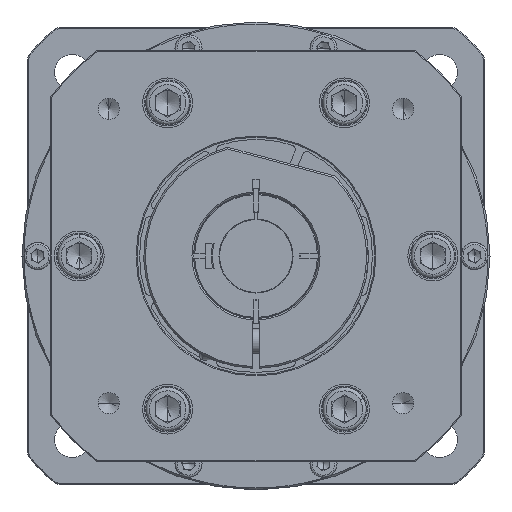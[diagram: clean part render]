
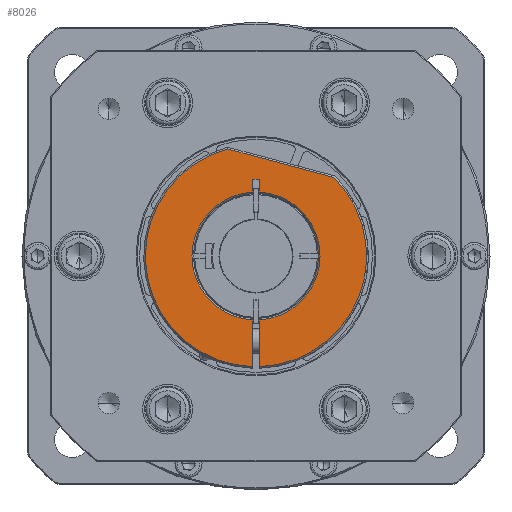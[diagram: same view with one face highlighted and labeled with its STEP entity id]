
A CAD part, left-side view. The second image highlights one B-rep face of the part: STEP entity #8026.
In plain terms, the highlighted planar face has unit normal (-1, 0, 0).
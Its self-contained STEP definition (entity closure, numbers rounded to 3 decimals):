
#150 = ORIENTED_EDGE ( 'NONE', *, *, #2705, .T. ) ;
#374 = ORIENTED_EDGE ( 'NONE', *, *, #33888, .T. ) ;
#466 = DIRECTION ( 'NONE',  ( 1., 0., 0. ) ) ;
#969 = CARTESIAN_POINT ( 'NONE',  ( 376.5, 1.5, -74.255 ) ) ;
#1063 = AXIS2_PLACEMENT_3D ( 'NONE', #4363, #33367, #4026 ) ;
#1080 = DIRECTION ( 'NONE',  ( 0., 0., 1. ) ) ;
#1483 = CARTESIAN_POINT ( 'NONE',  ( 376.5, -1.5, 30.763 ) ) ;
#1712 = DIRECTION ( 'NONE',  ( 0., 0., -1. ) ) ;
#2208 = CARTESIAN_POINT ( 'NONE',  ( 376.5, -1.5, -30.763 ) ) ;
#2705 = EDGE_CURVE ( 'NONE', #31221, #14386, #3387, .T. ) ;
#2822 = VECTOR ( 'NONE', #22998, 1000. ) ;
#2962 = EDGE_CURVE ( 'NONE', #14386, #19424, #19687, .T. ) ;
#3387 = LINE ( 'NONE', #28286, #6751 ) ;
#3482 = ORIENTED_EDGE ( 'NONE', *, *, #23799, .T. ) ;
#3909 = CARTESIAN_POINT ( 'NONE',  ( 376.5, 1.5, -30.763 ) ) ;
#4026 = DIRECTION ( 'NONE',  ( 0., -1., 0. ) ) ;
#4363 = CARTESIAN_POINT ( 'NONE',  ( 376.5, 0., 0. ) ) ;
#4481 = ORIENTED_EDGE ( 'NONE', *, *, #18477, .T. ) ;
#4490 = CIRCLE ( 'NONE', #17150, 53.2 ) ;
#4522 = CARTESIAN_POINT ( 'NONE',  ( 376.5, 13.522, 51.453 ) ) ;
#5473 = VERTEX_POINT ( 'NONE', #20111 ) ;
#6751 = VECTOR ( 'NONE', #33473, 1000. ) ;
#6900 = VERTEX_POINT ( 'NONE', #4522 ) ;
#8026 = ADVANCED_FACE ( 'NONE', ( #16850 ), #12878, .T. ) ;
#8434 = DIRECTION ( 'NONE',  ( 0., 0., -1. ) ) ;
#8641 = CARTESIAN_POINT ( 'NONE',  ( 376.5, 0., 0. ) ) ;
#9115 = EDGE_CURVE ( 'NONE', #12646, #9668, #18431, .T. ) ;
#9185 = EDGE_CURVE ( 'NONE', #5473, #11296, #25989, .T. ) ;
#9668 = VERTEX_POINT ( 'NONE', #1483 ) ;
#9794 = AXIS2_PLACEMENT_3D ( 'NONE', #24700, #466, #30131 ) ;
#10837 = ORIENTED_EDGE ( 'NONE', *, *, #9115, .T. ) ;
#10877 = ORIENTED_EDGE ( 'NONE', *, *, #32204, .T. ) ;
#11296 = VERTEX_POINT ( 'NONE', #2208 ) ;
#11599 = CARTESIAN_POINT ( 'NONE',  ( 376.5, -1.5, -74.255 ) ) ;
#12646 = VERTEX_POINT ( 'NONE', #27896 ) ;
#12674 = VERTEX_POINT ( 'NONE', #25647 ) ;
#12714 = EDGE_LOOP ( 'NONE', ( #26496, #4481, #10837, #10877, #13342, #3482, #24135, #17826, #374, #150, #31054 ) ) ;
#12878 = PLANE ( 'NONE',  #14257 ) ;
#13216 = VECTOR ( 'NONE', #15440, 1000. ) ;
#13342 = ORIENTED_EDGE ( 'NONE', *, *, #9185, .T. ) ;
#13804 = EDGE_CURVE ( 'NONE', #12674, #6900, #23070, .T. ) ;
#14257 = AXIS2_PLACEMENT_3D ( 'NONE', #15595, #34343, #18357 ) ;
#14386 = VERTEX_POINT ( 'NONE', #3909 ) ;
#14873 = CARTESIAN_POINT ( 'NONE',  ( 376.5, -1.5, -53.179 ) ) ;
#15423 = DIRECTION ( 'NONE',  ( -1., 0., 0. ) ) ;
#15440 = DIRECTION ( 'NONE',  ( 0., -1., 0. ) ) ;
#15562 = EDGE_CURVE ( 'NONE', #16752, #12674, #32229, .T. ) ;
#15595 = CARTESIAN_POINT ( 'NONE',  ( 376.5, 0., 0. ) ) ;
#15764 = CARTESIAN_POINT ( 'NONE',  ( 376.5, 0., 0. ) ) ;
#16220 = DIRECTION ( 'NONE',  ( 0., 0., -1. ) ) ;
#16752 = VERTEX_POINT ( 'NONE', #14873 ) ;
#16850 = FACE_OUTER_BOUND ( 'NONE', #12714, .T. ) ;
#17150 = AXIS2_PLACEMENT_3D ( 'NONE', #28435, #15423, #1712 ) ;
#17775 = EDGE_CURVE ( 'NONE', #19424, #33052, #30497, .T. ) ;
#17826 = ORIENTED_EDGE ( 'NONE', *, *, #13804, .T. ) ;
#18357 = DIRECTION ( 'NONE',  ( 0., 0., 1. ) ) ;
#18431 = LINE ( 'NONE', #11599, #22206 ) ;
#18477 = EDGE_CURVE ( 'NONE', #33052, #12646, #19481, .T. ) ;
#18846 = CARTESIAN_POINT ( 'NONE',  ( 376.5, 1.5, 37. ) ) ;
#18944 = AXIS2_PLACEMENT_3D ( 'NONE', #15764, #20984, #16220 ) ;
#19424 = VERTEX_POINT ( 'NONE', #30981 ) ;
#19481 = LINE ( 'NONE', #23615, #13216 ) ;
#19687 = CIRCLE ( 'NONE', #1063, 30.8 ) ;
#20111 = CARTESIAN_POINT ( 'NONE',  ( 376.5, -30.8, 0. ) ) ;
#20163 = CARTESIAN_POINT ( 'NONE',  ( 376.5, -1.5, -74.255 ) ) ;
#20984 = DIRECTION ( 'NONE',  ( -1., 0., 0. ) ) ;
#21216 = VECTOR ( 'NONE', #1080, 1000. ) ;
#21969 = DIRECTION ( 'NONE',  ( 0., -1., 0. ) ) ;
#22206 = VECTOR ( 'NONE', #8434, 1000. ) ;
#22998 = DIRECTION ( 'NONE',  ( 0., 0., -1. ) ) ;
#23005 = DIRECTION ( 'NONE',  ( 0., 0.966, 0.259 ) ) ;
#23070 = LINE ( 'NONE', #34213, #23478 ) ;
#23478 = VECTOR ( 'NONE', #23005, 1000. ) ;
#23615 = CARTESIAN_POINT ( 'NONE',  ( 376.5, 1.5, 37. ) ) ;
#23799 = EDGE_CURVE ( 'NONE', #11296, #16752, #28011, .T. ) ;
#24135 = ORIENTED_EDGE ( 'NONE', *, *, #15562, .T. ) ;
#24700 = CARTESIAN_POINT ( 'NONE',  ( 376.5, 0., 0. ) ) ;
#24908 = DIRECTION ( 'NONE',  ( 1., 0., 0. ) ) ;
#25647 = CARTESIAN_POINT ( 'NONE',  ( 376.5, -37.437, 37.799 ) ) ;
#25989 = CIRCLE ( 'NONE', #9794, 30.8 ) ;
#26496 = ORIENTED_EDGE ( 'NONE', *, *, #17775, .T. ) ;
#26977 = AXIS2_PLACEMENT_3D ( 'NONE', #8641, #24908, #21969 ) ;
#27896 = CARTESIAN_POINT ( 'NONE',  ( 376.5, -1.5, 37. ) ) ;
#28011 = LINE ( 'NONE', #20163, #2822 ) ;
#28286 = CARTESIAN_POINT ( 'NONE',  ( 376.5, 1.5, -74.255 ) ) ;
#28435 = CARTESIAN_POINT ( 'NONE',  ( 376.5, 0., 0. ) ) ;
#30131 = DIRECTION ( 'NONE',  ( 0., -1., 0. ) ) ;
#30484 = CARTESIAN_POINT ( 'NONE',  ( 376.5, 1.5, -53.179 ) ) ;
#30497 = LINE ( 'NONE', #969, #21216 ) ;
#30981 = CARTESIAN_POINT ( 'NONE',  ( 376.5, 1.5, 30.763 ) ) ;
#31054 = ORIENTED_EDGE ( 'NONE', *, *, #2962, .T. ) ;
#31221 = VERTEX_POINT ( 'NONE', #30484 ) ;
#32204 = EDGE_CURVE ( 'NONE', #9668, #5473, #33938, .T. ) ;
#32229 = CIRCLE ( 'NONE', #18944, 53.2 ) ;
#33052 = VERTEX_POINT ( 'NONE', #18846 ) ;
#33367 = DIRECTION ( 'NONE',  ( 1., 0., 0. ) ) ;
#33473 = DIRECTION ( 'NONE',  ( 0., 0., 1. ) ) ;
#33888 = EDGE_CURVE ( 'NONE', #6900, #31221, #4490, .T. ) ;
#33938 = CIRCLE ( 'NONE', #26977, 30.8 ) ;
#34213 = CARTESIAN_POINT ( 'NONE',  ( 376.5, -37.437, 37.799 ) ) ;
#34343 = DIRECTION ( 'NONE',  ( -1., 0., 0. ) ) ;
